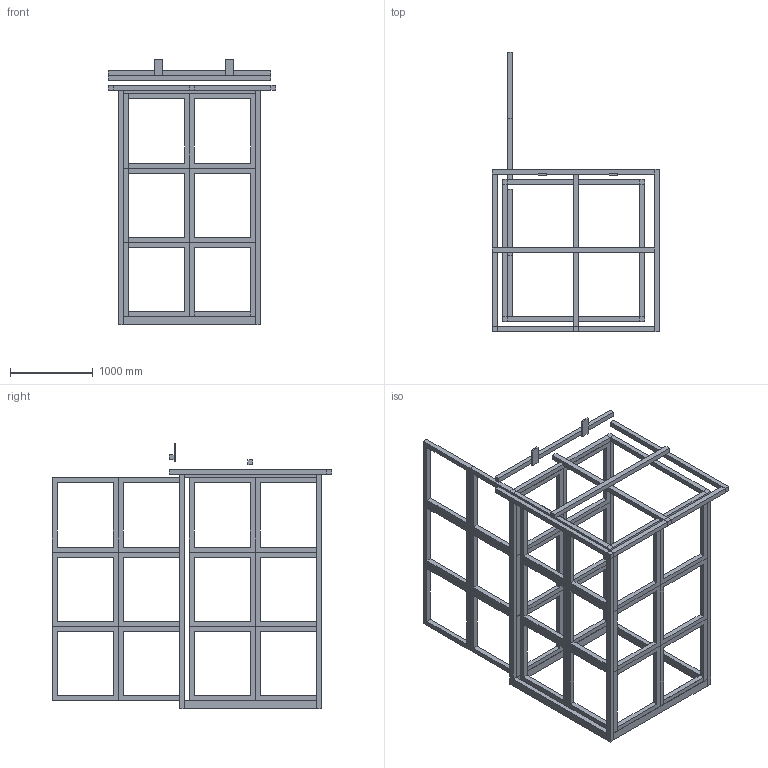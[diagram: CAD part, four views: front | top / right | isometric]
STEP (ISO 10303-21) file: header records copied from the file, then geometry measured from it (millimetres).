
FILE_DESCRIPTION(('Open CASCADE Model'),'2;1');
FILE_NAME('Open CASCADE Shape Model','2026-04-06T15:03:28',('Author'),( 'Open CASCADE'),'Open CASCADE STEP processor 7.9','Open CASCADE 7.9' ,'Unknown');
FILE_SCHEMA(('AUTOMOTIVE_DESIGN { 1 0 10303 214 1 1 1 1 }'));
Length unit declared in the file: millimetre
Products named in the file (46): Open CASCADE STEP translator 7.9 1; Open CASCADE STEP translator 7.9 1.1; Open CASCADE STEP translator 7.9 1.2; Open CASCADE STEP translator 7.9 1.3; Open CASCADE STEP translator 7.9 1.4; Open CASCADE STEP translator 7.9 1.5; Open CASCADE STEP translator 7.9 1.6; Open CASCADE STEP translator 7.9 1.7; Open CASCADE STEP translator 7.9 1.8; Open CASCADE STEP translator 7.9 1.9; Open CASCADE STEP translator 7.9 1.10; Open CASCADE STEP translator 7.9 1.11; Open CASCADE STEP translator 7.9 1.12; Open CASCADE STEP translator 7.9 1.13; Open CASCADE STEP translator 7.9 1.14; Open CASCADE STEP translator 7.9 1.15; Open CASCADE STEP translator 7.9 1.16; Open CASCADE STEP translator 7.9 1.17; Open CASCADE STEP translator 7.9 1.18; Open CASCADE STEP translator 7.9 1.19; Open CASCADE STEP translator 7.9 1.20; Open CASCADE STEP translator 7.9 1.21; Open CASCADE STEP translator 7.9 1.22; Open CASCADE STEP translator 7.9 1.23; Open CASCADE STEP translator 7.9 1.24; Open CASCADE STEP translator 7.9 1.25; Open CASCADE STEP translator 7.9 1.26; Open CASCADE STEP translator 7.9 1.27; Open CASCADE STEP translator 7.9 1.28; Open CASCADE STEP translator 7.9 1.29; Open CASCADE STEP translator 7.9 1.30; Open CASCADE STEP translator 7.9 1.31; Open CASCADE STEP translator 7.9 1.32; Open CASCADE STEP translator 7.9 1.33; Open CASCADE STEP translator 7.9 1.34; Open CASCADE STEP translator 7.9 1.35; Open CASCADE STEP translator 7.9 1.36; Open CASCADE STEP translator 7.9 1.37; Open CASCADE STEP translator 7.9 1.38; Open CASCADE STEP translator 7.9 1.39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
Assembly tree (45 placements, depth 2):
  Open CASCADE STEP translator 7.9 1
    Open CASCADE STEP translator 7.9 1.1
    Open CASCADE STEP translator 7.9 1.2
    Open CASCADE STEP translator 7.9 1.3
    Open CASCADE STEP translator 7.9 1.4
    Open CASCADE STEP translator 7.9 1.5
    Open CASCADE STEP translator 7.9 1.6
    Open CASCADE STEP translator 7.9 1.7
    Open CASCADE STEP translator 7.9 1.8
    Open CASCADE STEP translator 7.9 1.9
    Open CASCADE STEP translator 7.9 1.10
    Open CASCADE STEP translator 7.9 1.11
    Open CASCADE STEP translator 7.9 1.12
    Open CASCADE STEP translator 7.9 1.13
    Open CASCADE STEP translator 7.9 1.14
    Open CASCADE STEP translator 7.9 1.15
    Open CASCADE STEP translator 7.9 1.16
    Open CASCADE STEP translator 7.9 1.17
    Open CASCADE STEP translator 7.9 1.18
    Open CASCADE STEP translator 7.9 1.19
    Open CASCADE STEP translator 7.9 1.20
    Open CASCADE STEP translator 7.9 1.21
    Open CASCADE STEP translator 7.9 1.22
    Open CASCADE STEP translator 7.9 1.23
    Open CASCADE STEP translator 7.9 1.24
    Open CASCADE STEP translator 7.9 1.25
    Open CASCADE STEP translator 7.9 1.26
    Open CASCADE STEP translator 7.9 1.27
    Open CASCADE STEP translator 7.9 1.28
    Open CASCADE STEP translator 7.9 1.29
    Open CASCADE STEP translator 7.9 1.30
    Open CASCADE STEP translator 7.9 1.31
    Open CASCADE STEP translator 7.9 1.32
    Open CASCADE STEP translator 7.9 1.33
    Open CASCADE STEP translator 7.9 1.34
    Open CASCADE STEP translator 7.9 1.35
    Open CASCADE STEP translator 7.9 1.36
    Open CASCADE STEP translator 7.9 1.37
    Open CASCADE STEP translator 7.9 1.38
    Open CASCADE STEP translator 7.9 1.39
    Open CASCADE STEP translator 7.9 1.40
    Open CASCADE STEP translator 7.9 1.41
    Open CASCADE STEP translator 7.9 1.42
    Open CASCADE STEP translator 7.9 1.43
    Open CASCADE STEP translator 7.9 1.44
    Open CASCADE STEP translator 7.9 1.45
Bounding box: 2030 x 3385 x 3220 mm (x, y, z)
Volume: 421609600 mm3; surface area: 27803760 mm2
Topology: 45 solids, 45 shells, 366 faces, 828 edges, 552 vertices
Faces by surface type: plane 366
Entity records: 21220 total; most frequent: CARTESIAN_POINT 3832, DIRECTION 2924, LINE 2100, VECTOR 2100, ORIENTED_EDGE 1656, PCURVE 1656, DEFINITIONAL_REPRESENTATION 1656, EDGE_CURVE 828
